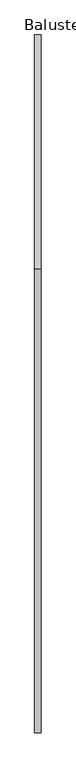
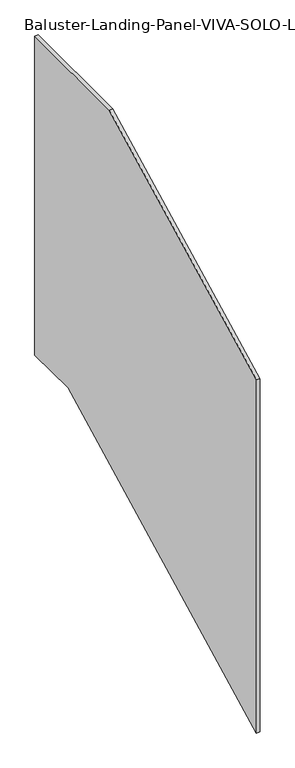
"""IFC4 building model written with IfcOpenShell, lengths in millimetres: railing geometry, Baluster-Landing-Panel-VIVA-SOLO-Lower : Standard_Glass."""

from ifc_helpers import new_model, si_unit, frame, origin, place, context, project, spatial, polyline, outline, extrude, source, transform, mapped, element, save


def baluster_landing_panel_viva_solo_lower_standard_glass_d9afa7e0(model_context):
    return source(origin(), model_context, "Body", "SweptSolid", [
        extrude(outline(polyline([(680.085, 1112.52), (1025.525, 1112.52), (1025.525, 208.5988597), (871.7012327, 208.5988597), (-5.0108793, -237.7228611), (-5.0108793, 763.7473897), (680.085, 1112.52)])), frame((33.3375, 0.0, 0.0), z_axis=(1.0, 0.0, 0.0), x_axis=(0.0, 1.0, 0.0)), (0.0, 0.0, 1.0), 9.525),
    ])


if __name__ == "__main__":
    model = new_model("IFC4")
    model_context = context("Model", 3, world=origin())
    ifc_project = project(units=[si_unit("LENGTHUNIT", "METRE", prefix="MILLI")], contexts=[model_context])
    site = spatial("IfcSite", under=ifc_project)
    building = spatial("IfcBuilding", under=site)
    placement = place(None, origin())
    baluster_landing_panel_viva_solo_lower_standard_glass_shape = baluster_landing_panel_viva_solo_lower_standard_glass_d9afa7e0(model_context)
    element("IfcRailing", 1, ObjectType="Baluster-Landing-Panel-VIVA-SOLO-Lower : Standard_Glass", at=placement, inside=building, context=model_context, shape_type="MappedRepresentation", body=[
        mapped(baluster_landing_panel_viva_solo_lower_standard_glass_shape, transform((0.0, 0.0, 0.0), x_axis=(1.0, 0.0, 0.0), y_axis=(0.0, 1.0, 0.0), z_axis=(0.0, 0.0, 1.0))),
    ])
    save(model, "model.ifc")
